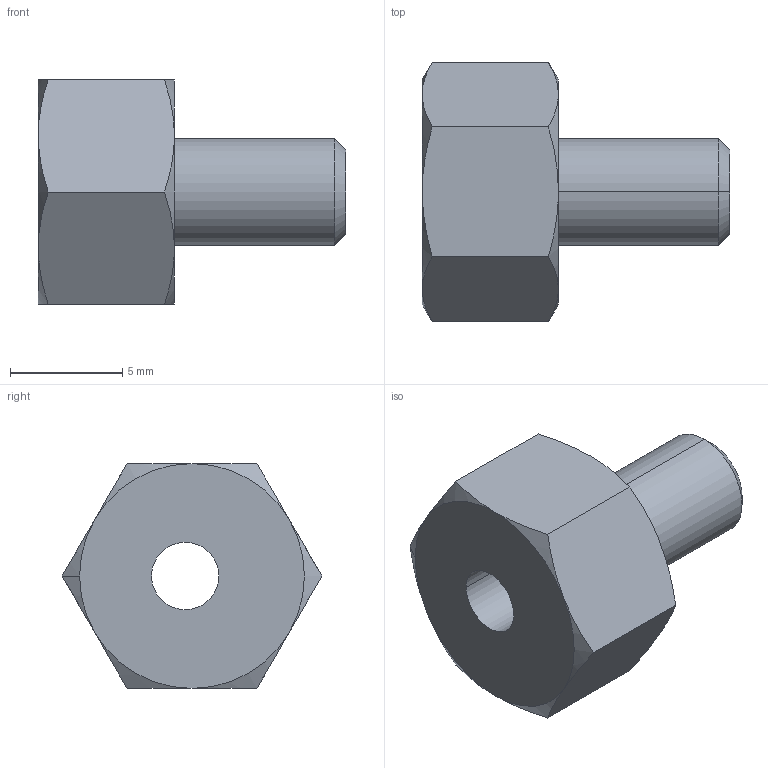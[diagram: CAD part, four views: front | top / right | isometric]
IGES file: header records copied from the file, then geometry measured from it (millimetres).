
Start section: SolidWorks IGES file using analytic representation for surfaces
Global section: file name: C:\Users\tsuch\OneDrive\デスクトップ\sb-vw (1)\SB1E.IGS; native system: SolidWorks 2019; preprocessor: SolidWorks 2019; author: tsuch; date: 210611.101957; units: millimetre
Bounding box: 13.68 x 11.55 x 10 mm (x, y, z)
Volume: 559.2 mm3; surface area: 598.8 mm2
Topology: 1 solids, 1 shells, 29 faces, 62 edges, 36 vertices
Faces by surface type: revolution 20, plane 9
